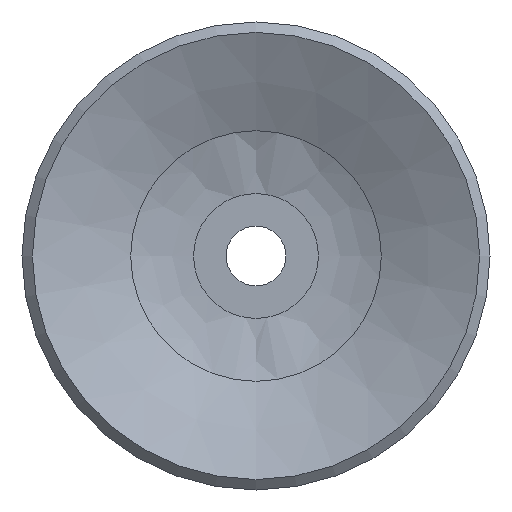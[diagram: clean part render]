
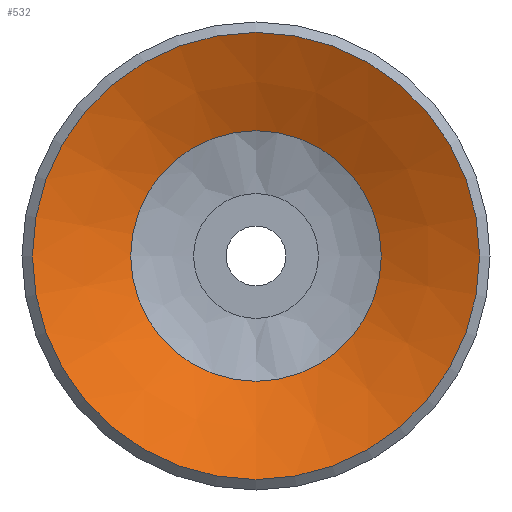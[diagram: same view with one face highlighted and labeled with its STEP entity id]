
A CAD part, front view. The second image highlights one B-rep face of the part: STEP entity #532.
In plain terms, the highlighted conical face has half-angle 65.056 degrees and reference radius 3.2 mm.
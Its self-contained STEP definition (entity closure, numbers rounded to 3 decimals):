
#532=ADVANCED_FACE('',(#788,#789),#790,.F.);
#788=FACE_BOUND('',#1143,.T.);
#789=FACE_OUTER_BOUND('',#1144,.T.);
#790=CONICAL_SURFACE('',#1145,3.2,1.135);
#1143=EDGE_LOOP('',(#2050));
#1144=EDGE_LOOP('',(#2051));
#1145=AXIS2_PLACEMENT_3D('',#2052,#2053,#2054);
#2050=ORIENTED_EDGE('',*,*,#2557,.T.);
#2051=ORIENTED_EDGE('',*,*,#2558,.T.);
#2052=CARTESIAN_POINT('',(0.0,7.896,0.0));
#2053=DIRECTION('',(-0.0,-1.0,0.));
#2054=DIRECTION('',(0.0,0.,-1.0));
#2557=EDGE_CURVE('',#2884,#2884,#2885,.T.);
#2558=EDGE_CURVE('',#2886,#2886,#2887,.T.);
#2884=VERTEX_POINT('',#3590);
#2885=CIRCLE('',#3591,4.203);
#2886=VERTEX_POINT('',#3592);
#2887=CIRCLE('',#3593,7.5);
#3590=CARTESIAN_POINT('',(0.0,7.43,-4.203));
#3591=AXIS2_PLACEMENT_3D('',#4292,#4293,#4294);
#3592=CARTESIAN_POINT('',(0.0,5.896,-7.5));
#3593=AXIS2_PLACEMENT_3D('',#4295,#4296,#4297);
#4292=CARTESIAN_POINT('',(0.0,7.43,0.0));
#4293=DIRECTION('',(0.0,1.0,0.));
#4294=DIRECTION('',(0.0,0.,-1.0));
#4295=CARTESIAN_POINT('',(0.0,5.896,0.0));
#4296=DIRECTION('',(0.0,-1.0,0.));
#4297=DIRECTION('',(0.0,0.,-1.0));
